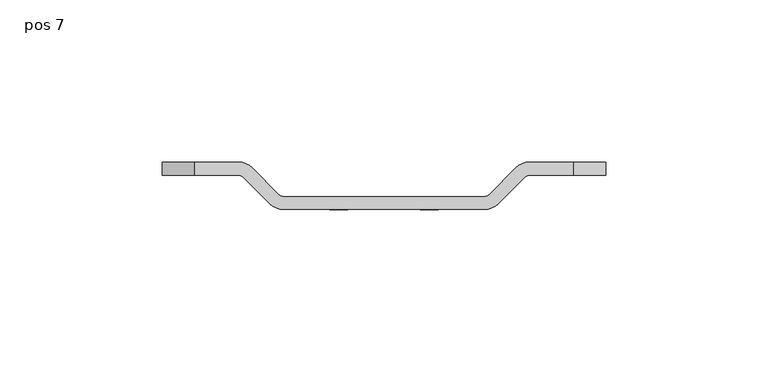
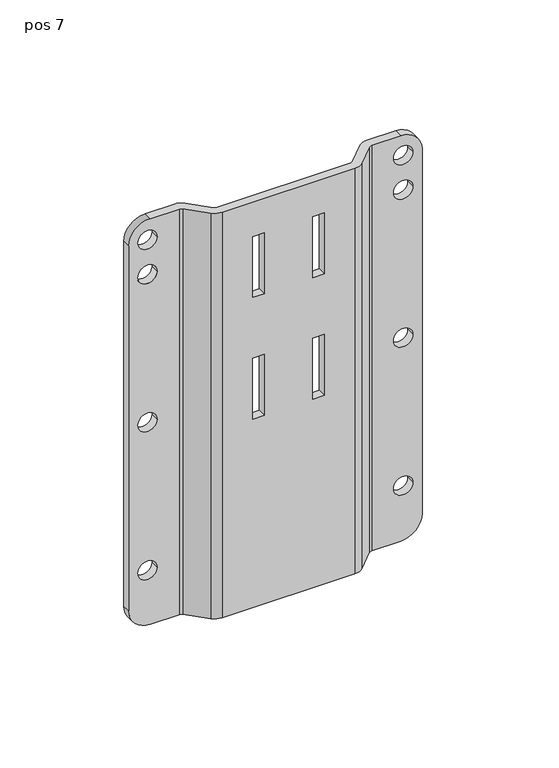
"""IFC4 building model written with IfcOpenShell, lengths in millimetres: proxy geometry, ePS12-WM380-BUMP-WVM : pos 7."""

from ifc_helpers import new_model, si_unit, frame, origin, place, context, project, spatial, polyline, circle_curve, source, transform, mapped, element, save
from ifc_brep_helpers import plane_surface, cylinder_surface, revolved_surface, advanced_brep


def pos_7_3f01e1d3(model_context):
    return source(origin(), model_context, "Body", "AdvancedBrep", [
        advanced_brep(
        [(44.9203102, 0.0, 10.5), (40.6776695, -1.7573593, 10.5), (32.4142136, -10.0208153, 10.5), (31.0, -10.6066017, 10.5), (-31.0, -10.6066017, 10.5), (-32.4142136, -10.0208153, 10.5), (-40.6776695, -1.7573593, 10.5), (-44.9203102, 0.0, 10.5), (-58.4350288, 0.0, 10.5), (-58.4350288, -4.0, 10.5), (-44.9203102, -4.0, 10.5), (-43.5060967, -4.5857864, 10.5), (-35.2426407, -12.8492424, 10.5), (-31.0, -14.6066017, 10.5), (31.0, -14.6066017, 10.5), (35.2426407, -12.8492424, 10.5), (43.5060967, -4.5857864, 10.5), (44.9203102, -4.0, 10.5), (58.4350288, -4.0, 10.5), (58.4350288, 0.0, 10.5), (44.9203102, -4.0, -189.5), (43.5060967, -4.5857864, -189.5), (35.2426407, -12.8492424, -189.5), (31.0, -14.6066017, -189.5), (-31.0, -14.6066017, -189.5), (-35.2426407, -12.8492424, -189.5), (-43.5060967, -4.5857864, -189.5), (-44.9203102, -4.0, -189.5), (-58.4350288, -4.0, -189.5), (-58.4350288, 0.0, -189.5), (-44.9203102, 0.0, -189.5), (-40.6776695, -1.7573593, -189.5), (-32.4142136, -10.0208153, -189.5), (-31.0, -10.6066017, -189.5), (31.0, -10.6066017, -189.5), (32.4142136, -10.0208153, -189.5), (40.6776695, -1.7573593, -189.5), (44.9203102, 0.0, -189.5), (58.4350288, 0.0, -189.5), (58.4350288, -4.0, -189.5), (68.4350288, 0.0, 0.5), (68.4350288, 0.0, -179.5), (55.1844308, 0.0, 0.5), (64.1844308, 0.0, 0.5), (55.1844308, 0.0, -16.5), (64.1844308, 0.0, -16.5), (55.1844308, 0.0, -89.5), (64.1844308, 0.0, -89.5), (55.1844308, 0.0, -162.5), (64.1844308, 0.0, -162.5), (16.75, -10.6066017, -6.5), (11.25, -10.6066017, -6.5), (11.25, -10.6066017, -36.5), (16.75, -10.6066017, -36.5), (16.75, -10.6066017, -66.5), (11.25, -10.6066017, -66.5), (11.25, -10.6066017, -96.5), (16.75, -10.6066017, -96.5), (-16.75, -10.6066017, -6.5), (-16.75, -10.6066017, -36.5), (-11.25, -10.6066017, -36.5), (-11.25, -10.6066017, -6.5), (-16.75, -10.6066017, -66.5), (-16.75, -10.6066017, -96.5), (-11.25, -10.6066017, -96.5), (-11.25, -10.6066017, -66.5), (-68.4350288, 0.0, -179.5), (-68.4350288, 0.0, 0.5), (-55.1844308, 0.0, 0.5), (-64.1844308, 0.0, 0.5), (-55.1844308, 0.0, -16.5), (-64.1844308, 0.0, -16.5), (-55.1844308, 0.0, -89.5), (-64.1844308, 0.0, -89.5), (-55.1844308, 0.0, -162.5), (-64.1844308, 0.0, -162.5), (-68.4350288, -4.0, -179.5), (-68.4350288, -4.0, 0.5), (-64.1844308, -4.0, 0.5), (-55.1844308, -4.0, 0.5), (-64.1844308, -4.0, -16.5), (-55.1844308, -4.0, -16.5), (-64.1844308, -4.0, -89.5), (-55.1844308, -4.0, -89.5), (-64.1844308, -4.0, -162.5), (-55.1844308, -4.0, -162.5), (11.25, -14.6066017, -6.5), (16.75, -14.6066017, -6.5), (16.75, -14.6066017, -36.5), (11.25, -14.6066017, -36.5), (11.25, -14.6066017, -66.5), (16.75, -14.6066017, -66.5), (16.75, -14.6066017, -96.5), (11.25, -14.6066017, -96.5), (-16.75, -14.6066017, -36.5), (-16.75, -14.6066017, -6.5), (-11.25, -14.6066017, -6.5), (-11.25, -14.6066017, -36.5), (-16.75, -14.6066017, -96.5), (-16.75, -14.6066017, -66.5), (-11.25, -14.6066017, -66.5), (-11.25, -14.6066017, -96.5), (68.4350288, -4.0, -179.5), (68.4350288, -4.0, 0.5), (64.1844308, -4.0, 0.5), (55.1844308, -4.0, 0.5), (64.1844308, -4.0, -16.5), (55.1844308, -4.0, -16.5), (64.1844308, -4.0, -89.5), (55.1844308, -4.0, -89.5), (64.1844308, -4.0, -162.5), (55.1844308, -4.0, -162.5)],
        [
            (0, 1, circle_curve(frame((44.9203102, -6.0, 10.5), z_axis=(0.0, 0.0, 1.0), x_axis=(1.0, 0.0, 0.0)), 6.0)),
            (1, 2),
            (2, 3, circle_curve(frame((31.0, -8.6066017, 10.5), z_axis=(0.0, 0.0, -1.0), x_axis=(1.0, 0.0, 0.0)), 2.0)),
            (3, 4),
            (4, 5, circle_curve(frame((-31.0, -8.6066017, 10.5), z_axis=(0.0, 0.0, -1.0), x_axis=(1.0, 0.0, 0.0)), 2.0)),
            (5, 6),
            (6, 7, circle_curve(frame((-44.9203102, -6.0, 10.5), z_axis=(0.0, 0.0, 1.0), x_axis=(1.0, 0.0, 0.0)), 6.0)),
            (7, 8),
            (8, 9),
            (9, 10),
            (10, 11, circle_curve(frame((-44.9203102, -6.0, 10.5), z_axis=(0.0, 0.0, -1.0), x_axis=(1.0, 0.0, 0.0)), 2.0)),
            (11, 12),
            (12, 13, circle_curve(frame((-31.0, -8.6066017, 10.5), z_axis=(0.0, 0.0, 1.0), x_axis=(1.0, 0.0, 0.0)), 6.0)),
            (13, 14),
            (14, 15, circle_curve(frame((31.0, -8.6066017, 10.5), z_axis=(0.0, 0.0, 1.0), x_axis=(1.0, 0.0, 0.0)), 6.0)),
            (15, 16),
            (16, 17, circle_curve(frame((44.9203102, -6.0, 10.5), z_axis=(0.0, 0.0, -1.0), x_axis=(1.0, 0.0, 0.0)), 2.0)),
            (17, 18),
            (18, 19),
            (19, 0),
            (20, 21, circle_curve(frame((44.9203102, -6.0, -189.5), z_axis=(0.0, 0.0, 1.0), x_axis=(1.0, 0.0, 0.0)), 2.0)),
            (21, 22),
            (22, 23, circle_curve(frame((31.0, -8.6066017, -189.5), z_axis=(0.0, 0.0, -1.0), x_axis=(1.0, 0.0, 0.0)), 6.0)),
            (23, 24),
            (24, 25, circle_curve(frame((-31.0, -8.6066017, -189.5), z_axis=(0.0, 0.0, -1.0), x_axis=(1.0, 0.0, 0.0)), 6.0)),
            (25, 26),
            (26, 27, circle_curve(frame((-44.9203102, -6.0, -189.5), z_axis=(0.0, 0.0, 1.0), x_axis=(1.0, 0.0, 0.0)), 2.0)),
            (27, 28),
            (28, 29),
            (29, 30),
            (30, 31, circle_curve(frame((-44.9203102, -6.0, -189.5), z_axis=(0.0, 0.0, -1.0), x_axis=(1.0, 0.0, 0.0)), 6.0)),
            (31, 32),
            (32, 33, circle_curve(frame((-31.0, -8.6066017, -189.5), z_axis=(0.0, 0.0, 1.0), x_axis=(1.0, 0.0, 0.0)), 2.0)),
            (33, 34),
            (34, 35, circle_curve(frame((31.0, -8.6066017, -189.5), z_axis=(0.0, 0.0, 1.0), x_axis=(1.0, 0.0, 0.0)), 2.0)),
            (35, 36),
            (36, 37, circle_curve(frame((44.9203102, -6.0, -189.5), z_axis=(0.0, 0.0, -1.0), x_axis=(1.0, 0.0, 0.0)), 6.0)),
            (37, 38),
            (38, 39),
            (39, 20),
            (37, 0),
            (19, 40, circle_curve(frame((58.4350288, 0.0, 0.5), z_axis=(0.0, 1.0, 0.0), x_axis=(1.0, 0.0, 0.0)), 10.0)),
            (40, 41),
            (41, 38, circle_curve(frame((58.4350288, 0.0, -179.5), z_axis=(0.0, 1.0, 0.0), x_axis=(1.0, 0.0, 0.0)), 10.0)),
            (42, 43, circle_curve(frame((59.6844308, 0.0, 0.5), z_axis=(0.0, -1.0, 0.0), x_axis=(1.0, 0.0, 0.0)), 4.5)),
            (43, 42, circle_curve(frame((59.6844308, 0.0, 0.5), z_axis=(0.0, -1.0, 0.0), x_axis=(1.0, 0.0, 0.0)), 4.5)),
            (44, 45, circle_curve(frame((59.6844308, 0.0, -16.5), z_axis=(0.0, -1.0, 0.0), x_axis=(1.0, 0.0, 0.0)), 4.5)),
            (45, 44, circle_curve(frame((59.6844308, 0.0, -16.5), z_axis=(0.0, -1.0, 0.0), x_axis=(1.0, 0.0, 0.0)), 4.5)),
            (46, 47, circle_curve(frame((59.6844308, 0.0, -89.5), z_axis=(0.0, -1.0, 0.0), x_axis=(1.0, 0.0, 0.0)), 4.5)),
            (47, 46, circle_curve(frame((59.6844308, 0.0, -89.5), z_axis=(0.0, -1.0, 0.0), x_axis=(1.0, 0.0, 0.0)), 4.5)),
            (48, 49, circle_curve(frame((59.6844308, 0.0, -162.5), z_axis=(0.0, -1.0, 0.0), x_axis=(1.0, 0.0, 0.0)), 4.5)),
            (49, 48, circle_curve(frame((59.6844308, 0.0, -162.5), z_axis=(0.0, -1.0, 0.0), x_axis=(1.0, 0.0, 0.0)), 4.5)),
            (36, 1),
            (35, 2),
            (34, 3),
            (33, 4),
            (50, 51),
            (51, 52),
            (52, 53),
            (53, 50),
            (54, 55),
            (55, 56),
            (56, 57),
            (57, 54),
            (58, 59),
            (59, 60),
            (60, 61),
            (61, 58),
            (62, 63),
            (63, 64),
            (64, 65),
            (65, 62),
            (32, 5),
            (31, 6),
            (30, 7),
            (29, 66, circle_curve(frame((-58.4350288, 0.0, -179.5), z_axis=(0.0, 1.0, 0.0), x_axis=(-1.0, 0.0, 0.0)), 10.0)),
            (66, 67),
            (67, 8, circle_curve(frame((-58.4350288, 0.0, 0.5), z_axis=(0.0, 1.0, 0.0), x_axis=(-1.0, 0.0, 0.0)), 10.0)),
            (68, 69, circle_curve(frame((-59.6844308, 0.0, 0.5), z_axis=(0.0, -1.0, 0.0), x_axis=(-1.0, 0.0, 0.0)), 4.5)),
            (69, 68, circle_curve(frame((-59.6844308, 0.0, 0.5), z_axis=(0.0, -1.0, 0.0), x_axis=(-1.0, 0.0, 0.0)), 4.5)),
            (70, 71, circle_curve(frame((-59.6844308, 0.0, -16.5), z_axis=(0.0, -1.0, 0.0), x_axis=(-1.0, 0.0, 0.0)), 4.5)),
            (71, 70, circle_curve(frame((-59.6844308, 0.0, -16.5), z_axis=(0.0, -1.0, 0.0), x_axis=(-1.0, 0.0, 0.0)), 4.5)),
            (72, 73, circle_curve(frame((-59.6844308, 0.0, -89.5), z_axis=(0.0, -1.0, 0.0), x_axis=(-1.0, 0.0, 0.0)), 4.5)),
            (73, 72, circle_curve(frame((-59.6844308, 0.0, -89.5), z_axis=(0.0, -1.0, 0.0), x_axis=(-1.0, 0.0, 0.0)), 4.5)),
            (74, 75, circle_curve(frame((-59.6844308, 0.0, -162.5), z_axis=(0.0, -1.0, 0.0), x_axis=(-1.0, 0.0, 0.0)), 4.5)),
            (75, 74, circle_curve(frame((-59.6844308, 0.0, -162.5), z_axis=(0.0, -1.0, 0.0), x_axis=(-1.0, 0.0, 0.0)), 4.5)),
            (66, 76),
            (76, 77),
            (77, 67),
            (27, 10),
            (9, 77, circle_curve(frame((-58.4350288, -4.0, 0.5), z_axis=(0.0, -1.0, 0.0), x_axis=(-1.0, 0.0, 0.0)), 10.0)),
            (76, 28, circle_curve(frame((-58.4350288, -4.0, -179.5), z_axis=(0.0, -1.0, 0.0), x_axis=(-1.0, 0.0, 0.0)), 10.0)),
            (78, 79, circle_curve(frame((-59.6844308, -4.0, 0.5), z_axis=(0.0, 1.0, 0.0), x_axis=(-1.0, 0.0, 0.0)), 4.5)),
            (79, 78, circle_curve(frame((-59.6844308, -4.0, 0.5), z_axis=(0.0, 1.0, 0.0), x_axis=(-1.0, 0.0, 0.0)), 4.5)),
            (80, 81, circle_curve(frame((-59.6844308, -4.0, -16.5), z_axis=(0.0, 1.0, 0.0), x_axis=(-1.0, 0.0, 0.0)), 4.5)),
            (81, 80, circle_curve(frame((-59.6844308, -4.0, -16.5), z_axis=(0.0, 1.0, 0.0), x_axis=(-1.0, 0.0, 0.0)), 4.5)),
            (82, 83, circle_curve(frame((-59.6844308, -4.0, -89.5), z_axis=(0.0, 1.0, 0.0), x_axis=(-1.0, 0.0, 0.0)), 4.5)),
            (83, 82, circle_curve(frame((-59.6844308, -4.0, -89.5), z_axis=(0.0, 1.0, 0.0), x_axis=(-1.0, 0.0, 0.0)), 4.5)),
            (84, 85, circle_curve(frame((-59.6844308, -4.0, -162.5), z_axis=(0.0, 1.0, 0.0), x_axis=(-1.0, 0.0, 0.0)), 4.5)),
            (85, 84, circle_curve(frame((-59.6844308, -4.0, -162.5), z_axis=(0.0, 1.0, 0.0), x_axis=(-1.0, 0.0, 0.0)), 4.5)),
            (26, 11),
            (25, 12),
            (24, 13),
            (23, 14),
            (86, 87),
            (87, 88),
            (88, 89),
            (89, 86),
            (90, 91),
            (91, 92),
            (92, 93),
            (93, 90),
            (94, 95),
            (95, 96),
            (96, 97),
            (97, 94),
            (98, 99),
            (99, 100),
            (100, 101),
            (101, 98),
            (22, 15),
            (21, 16),
            (20, 17),
            (39, 102, circle_curve(frame((58.4350288, -4.0, -179.5), z_axis=(0.0, -1.0, 0.0), x_axis=(1.0, 0.0, 0.0)), 10.0)),
            (102, 103),
            (103, 18, circle_curve(frame((58.4350288, -4.0, 0.5), z_axis=(0.0, -1.0, 0.0), x_axis=(1.0, 0.0, 0.0)), 10.0)),
            (104, 105, circle_curve(frame((59.6844308, -4.0, 0.5), z_axis=(0.0, 1.0, 0.0), x_axis=(1.0, 0.0, 0.0)), 4.5)),
            (105, 104, circle_curve(frame((59.6844308, -4.0, 0.5), z_axis=(0.0, 1.0, 0.0), x_axis=(1.0, 0.0, 0.0)), 4.5)),
            (106, 107, circle_curve(frame((59.6844308, -4.0, -16.5), z_axis=(0.0, 1.0, 0.0), x_axis=(1.0, 0.0, 0.0)), 4.5)),
            (107, 106, circle_curve(frame((59.6844308, -4.0, -16.5), z_axis=(0.0, 1.0, 0.0), x_axis=(1.0, 0.0, 0.0)), 4.5)),
            (108, 109, circle_curve(frame((59.6844308, -4.0, -89.5), z_axis=(0.0, 1.0, 0.0), x_axis=(1.0, 0.0, 0.0)), 4.5)),
            (109, 108, circle_curve(frame((59.6844308, -4.0, -89.5), z_axis=(0.0, 1.0, 0.0), x_axis=(1.0, 0.0, 0.0)), 4.5)),
            (110, 111, circle_curve(frame((59.6844308, -4.0, -162.5), z_axis=(0.0, 1.0, 0.0), x_axis=(1.0, 0.0, 0.0)), 4.5)),
            (111, 110, circle_curve(frame((59.6844308, -4.0, -162.5), z_axis=(0.0, 1.0, 0.0), x_axis=(1.0, 0.0, 0.0)), 4.5)),
            (40, 103),
            (102, 41),
            (42, 105),
            (104, 43),
            (44, 107),
            (106, 45),
            (46, 109),
            (108, 47),
            (48, 111),
            (110, 49),
            (50, 87),
            (86, 51),
            (89, 52),
            (88, 53),
            (54, 91),
            (90, 55),
            (93, 56),
            (92, 57),
            (68, 79),
            (78, 69),
            (70, 81),
            (80, 71),
            (72, 83),
            (82, 73),
            (74, 85),
            (84, 75),
            (58, 95),
            (94, 59),
            (97, 60),
            (96, 61),
            (62, 99),
            (98, 63),
            (101, 64),
            (100, 65),
        ],
        [
            plane_surface(frame((68.4350288, 0.0, 10.5), z_axis=(0.0, 0.0, 1.0), x_axis=(-1.0, 0.0, 0.0))),
            plane_surface(frame((68.4350288, 0.0, -189.5), z_axis=(0.0, 0.0, -1.0), x_axis=(1.0, 0.0, 0.0))),
            plane_surface(frame((68.4350288, 0.0, 10.5), z_axis=(0.0, 1.0, 0.0), x_axis=(0.0, 0.0, -1.0))),
            cylinder_surface(frame((44.9203102, -6.0, -189.5), z_axis=(0.0, 0.0, 1.0), x_axis=(1.0, 0.0, 0.0)), 6.0),
            plane_surface(frame((40.6776695, -1.7573593, 10.5), z_axis=(-0.7071067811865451, 0.70710678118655, 0.0), x_axis=(0.0, 0.0, -1.0))),
            revolved_surface(polyline([(33.0, -8.6066017, -189.5), (33.0, -8.6066017, 10.5)]), (31.0, -8.6066017, -189.5), (0.0, 0.0, -1.0)),
            plane_surface(frame((31.0, -10.6066017, 10.5), z_axis=(0.0, 1.0, 0.0), x_axis=(0.0, 0.0, -1.0))),
            revolved_surface(polyline([(-29.0, -8.6066017, -189.5), (-29.0, -8.6066017, 10.5)]), (-31.0, -8.6066017, -189.5), (0.0, 0.0, -1.0)),
            plane_surface(frame((-32.4142136, -10.0208153, 10.5), z_axis=(0.7071067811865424, 0.7071067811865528, 0.0), x_axis=(0.0, 0.0, -1.0))),
            cylinder_surface(frame((-44.9203102, -6.0, -189.5), z_axis=(0.0, 0.0, 1.0), x_axis=(1.0, 0.0, 0.0)), 6.0),
            plane_surface(frame((-44.9203102, 0.0, 10.5), z_axis=(0.0, 1.0, 0.0), x_axis=(0.0, 0.0, -1.0))),
            plane_surface(frame((-68.4350288, 0.0, 10.5), z_axis=(-1.0, 0.0, 0.0), x_axis=(0.0, 0.0, -1.0))),
            plane_surface(frame((-68.4350288, -4.0, 10.5), z_axis=(0.0, -1.0, 0.0), x_axis=(0.0, 0.0, -1.0))),
            revolved_surface(polyline([(-42.9203102, -6.0, -189.5), (-42.9203102, -6.0, 10.5)]), (-44.9203102, -6.0, -189.5), (0.0, 0.0, -1.0)),
            plane_surface(frame((-43.5060967, -4.5857864, 10.5), z_axis=(-0.7071067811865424, -0.7071067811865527, 0.0), x_axis=(0.0, 0.0, -1.0))),
            cylinder_surface(frame((-31.0, -8.6066017, -189.5), z_axis=(0.0, 0.0, 1.0), x_axis=(1.0, 0.0, 0.0)), 6.0),
            plane_surface(frame((-31.0, -14.6066017, 10.5), z_axis=(0.0, -1.0, 0.0), x_axis=(0.0, 0.0, -1.0))),
            cylinder_surface(frame((31.0, -8.6066017, -189.5), z_axis=(0.0, 0.0, 1.0), x_axis=(1.0, 0.0, 0.0)), 6.0),
            plane_surface(frame((35.2426407, -12.8492424, 10.5), z_axis=(0.7071067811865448, -0.7071067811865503, 0.0), x_axis=(0.0, 0.0, -1.0))),
            revolved_surface(polyline([(46.9203102, -6.0, -189.5), (46.9203102, -6.0, 10.5)]), (44.9203102, -6.0, -189.5), (0.0, 0.0, -1.0)),
            plane_surface(frame((44.9203102, -4.0, 10.5), z_axis=(0.0, -1.0, 0.0), x_axis=(0.0, 0.0, -1.0))),
            plane_surface(frame((68.4350288, -4.0, 10.5), z_axis=(1.0, 0.0, 0.0), x_axis=(0.0, 0.0, -1.0))),
            cylinder_surface(frame((58.4350288, 0.0, 0.5), z_axis=(0.0, 1.0, 0.0), x_axis=(1.0, 0.0, 0.0)), 10.0),
            revolved_surface(polyline([(64.1844308, -4.0, 0.5), (64.1844308, 0.0, 0.5)]), (59.6844308, 0.0, 0.5), (0.0, -1.0, 0.0)),
            revolved_surface(polyline([(64.1844308, -4.0, -16.5), (64.1844308, 0.0, -16.5)]), (59.6844308, 0.0, -16.5), (0.0, -1.0, 0.0)),
            revolved_surface(polyline([(64.1844308, -4.0, -89.5), (64.1844308, 0.0, -89.5)]), (59.6844308, 0.0, -89.5), (0.0, -1.0, 0.0)),
            revolved_surface(polyline([(64.1844308, -4.0, -162.5), (64.1844308, 0.0, -162.5)]), (59.6844308, 0.0, -162.5), (0.0, -1.0, 0.0)),
            cylinder_surface(frame((58.4350288, 0.0, -179.5), z_axis=(0.0, 1.0, 0.0), x_axis=(1.0, 0.0, 0.0)), 10.0),
            plane_surface(frame((16.75, -20.0, -6.5), z_axis=(0.0, 0.0, -1.0), x_axis=(0.0, 1.0, 0.0))),
            plane_surface(frame((11.25, -20.0, -6.5), z_axis=(1.0, 0.0, 0.0), x_axis=(0.0, 1.0, 0.0))),
            plane_surface(frame((11.25, -20.0, -36.5), z_axis=(0.0, 0.0, 1.0), x_axis=(0.0, 1.0, 0.0))),
            plane_surface(frame((16.75, -20.0, -36.5), z_axis=(-1.0, 0.0, 0.0), x_axis=(0.0, 1.0, 0.0))),
            plane_surface(frame((16.75, -20.0, -66.5), z_axis=(0.0, 0.0, -1.0), x_axis=(0.0, 1.0, 0.0))),
            plane_surface(frame((11.25, -20.0, -66.5), z_axis=(1.0, 0.0, 0.0), x_axis=(0.0, 1.0, 0.0))),
            plane_surface(frame((11.25, -20.0, -96.5), z_axis=(0.0, 0.0, 1.0), x_axis=(0.0, 1.0, 0.0))),
            plane_surface(frame((16.75, -20.0, -96.5), z_axis=(-1.0, 0.0, 0.0), x_axis=(0.0, 1.0, 0.0))),
            cylinder_surface(frame((-58.4350288, 0.0, 0.5), z_axis=(0.0, 1.0, 0.0), x_axis=(-1.0, 0.0, 0.0)), 10.0),
            revolved_surface(polyline([(-64.1844308, -4.0, 0.5), (-64.1844308, 0.0, 0.5)]), (-59.6844308, 0.0, 0.5), (0.0, -1.0, 0.0)),
            revolved_surface(polyline([(-64.1844308, -4.0, -16.5), (-64.1844308, 0.0, -16.5)]), (-59.6844308, 0.0, -16.5), (0.0, -1.0, 0.0)),
            revolved_surface(polyline([(-64.1844308, -4.0, -89.5), (-64.1844308, 0.0, -89.5)]), (-59.6844308, 0.0, -89.5), (0.0, -1.0, 0.0)),
            revolved_surface(polyline([(-64.1844308, -4.0, -162.5), (-64.1844308, 0.0, -162.5)]), (-59.6844308, 0.0, -162.5), (0.0, -1.0, 0.0)),
            cylinder_surface(frame((-58.4350288, 0.0, -179.5), z_axis=(0.0, 1.0, 0.0), x_axis=(-1.0, 0.0, 0.0)), 10.0),
            plane_surface(frame((-16.75, -20.0, -6.5), z_axis=(1.0, 0.0, 0.0), x_axis=(0.0, 1.0, 0.0))),
            plane_surface(frame((-16.75, -20.0, -36.5), z_axis=(0.0, 0.0, 1.0), x_axis=(0.0, 1.0, 0.0))),
            plane_surface(frame((-11.25, -20.0, -36.5), z_axis=(-1.0, 0.0, 0.0), x_axis=(0.0, 1.0, 0.0))),
            plane_surface(frame((-11.25, -20.0, -6.5), z_axis=(0.0, 0.0, -1.0), x_axis=(0.0, 1.0, 0.0))),
            plane_surface(frame((-16.75, -20.0, -66.5), z_axis=(1.0, 0.0, 0.0), x_axis=(0.0, 1.0, 0.0))),
            plane_surface(frame((-16.75, -20.0, -96.5), z_axis=(0.0, 0.0, 1.0), x_axis=(0.0, 1.0, 0.0))),
            plane_surface(frame((-11.25, -20.0, -96.5), z_axis=(-1.0, 0.0, 0.0), x_axis=(0.0, 1.0, 0.0))),
            plane_surface(frame((-11.25, -20.0, -66.5), z_axis=(0.0, 0.0, -1.0), x_axis=(0.0, 1.0, 0.0))),
        ],
        [
            (0, [[1, 2, 3, 4, 5, 6, 7, 8, 9, 10, 11, 12, 13, 14, 15, 16, 17, 18, 19, 20]]),
            (1, [[21, 22, 23, 24, 25, 26, 27, 28, 29, 30, 31, 32, 33, 34, 35, 36, 37, 38, 39, 40]]),
            (2, [[41, -20, 42, 43, 44, -38], [45, 46], [47, 48], [49, 50], [51, 52]]),
            (3, [[-1, -41, -37, 53]]),
            (4, [[-2, -53, -36, 54]]),
            (5, [[-3, -54, -35, 55]]),
            (6, [[-4, -55, -34, 56], [57, 58, 59, 60], [61, 62, 63, 64], [65, 66, 67, 68], [69, 70, 71, 72]]),
            (7, [[-5, -56, -33, 73]]),
            (8, [[-6, -73, -32, 74]]),
            (9, [[-7, -74, -31, 75]]),
            (10, [[-75, -30, 76, 77, 78, -8], [79, 80], [81, 82], [83, 84], [85, 86]]),
            (11, [[-77, 87, 88, 89]]),
            (12, [[90, -10, 91, -88, 92, -28], [93, 94], [95, 96], [97, 98], [99, 100]]),
            (13, [[-11, -90, -27, 101]]),
            (14, [[-12, -101, -26, 102]]),
            (15, [[-13, -102, -25, 103]]),
            (16, [[-14, -103, -24, 104], [105, 106, 107, 108], [109, 110, 111, 112], [113, 114, 115, 116], [117, 118, 119, 120]]),
            (17, [[-15, -104, -23, 121]]),
            (18, [[-16, -121, -22, 122]]),
            (19, [[-17, -122, -21, 123]]),
            (20, [[-123, -40, 124, 125, 126, -18], [127, 128], [129, 130], [131, 132], [133, 134]]),
            (21, [[-43, 135, -125, 136]]),
            (22, [[-19, -126, -135, -42]]),
            (23, [[137, -127, 138, -45]]),
            (23, [[-137, -46, -138, -128]]),
            (24, [[139, -129, 140, -47]]),
            (24, [[-139, -48, -140, -130]]),
            (25, [[141, -131, 142, -49]]),
            (25, [[-141, -50, -142, -132]]),
            (26, [[143, -133, 144, -51]]),
            (26, [[-143, -52, -144, -134]]),
            (27, [[-39, -44, -136, -124]]),
            (28, [[145, -105, 146, -57]]),
            (29, [[-146, -108, 147, -58]]),
            (30, [[-147, -107, 148, -59]]),
            (31, [[-145, -60, -148, -106]]),
            (32, [[149, -109, 150, -61]]),
            (33, [[-150, -112, 151, -62]]),
            (34, [[-151, -111, 152, -63]]),
            (35, [[-149, -64, -152, -110]]),
            (36, [[-9, -78, -89, -91]]),
            (37, [[153, -93, 154, -79]]),
            (37, [[-153, -80, -154, -94]]),
            (38, [[155, -95, 156, -81]]),
            (38, [[-155, -82, -156, -96]]),
            (39, [[157, -97, 158, -83]]),
            (39, [[-157, -84, -158, -98]]),
            (40, [[159, -99, 160, -85]]),
            (40, [[-159, -86, -160, -100]]),
            (41, [[-29, -92, -87, -76]]),
            (42, [[161, -113, 162, -65]]),
            (43, [[-162, -116, 163, -66]]),
            (44, [[-163, -115, 164, -67]]),
            (45, [[-161, -68, -164, -114]]),
            (46, [[165, -117, 166, -69]]),
            (47, [[-166, -120, 167, -70]]),
            (48, [[-167, -119, 168, -71]]),
            (49, [[-165, -72, -168, -118]]),
        ],
    ),
    ])


if __name__ == "__main__":
    model = new_model("IFC4")
    model_context = context("Model", 3, world=origin())
    ifc_project = project(units=[si_unit("LENGTHUNIT", "METRE", prefix="MILLI")], contexts=[model_context])
    site = spatial("IfcSite", under=ifc_project)
    building = spatial("IfcBuilding", under=site)
    placement = place(None, origin())
    pos_7_shape = pos_7_3f01e1d3(model_context)
    element("IfcBuildingElementProxy", 1, Name="ePS12-WM380-BUMP-WVM : pos 7", ObjectType="ePS12-WM380-BUMP-WVM : pos 7", at=placement, inside=building, context=model_context, shape_type="MappedRepresentation", body=[
        mapped(pos_7_shape, transform((0.0, 0.0, 0.0), x_axis=(1.0, 0.0, 0.0), y_axis=(0.0, 1.0, 0.0), z_axis=(0.0, 0.0, 1.0))),
    ])
    save(model, "model.ifc")
